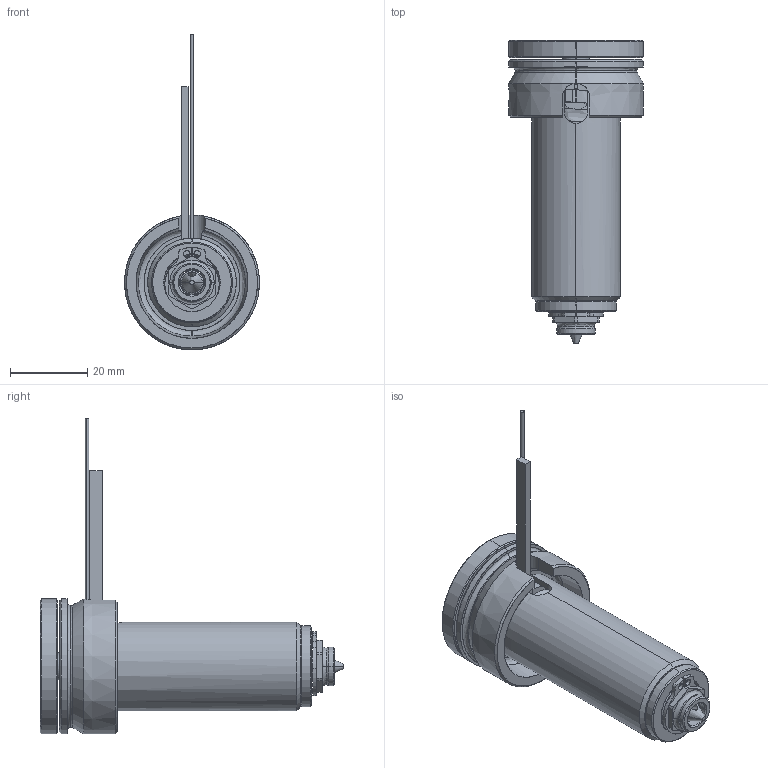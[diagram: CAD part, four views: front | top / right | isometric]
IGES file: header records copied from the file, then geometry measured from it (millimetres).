
Start section: SolidWorks IGES file using analytic representation for surfaces
Global section: file name: C:\Documents and Settings\ws-20\Desktop\TEM\UGEP3051-S-A-1 [Øf-1.10 ØC-7.0].IGS; native system: SolidWorks 2012; preprocessor: SolidWorks 2012; author: ws-20; date: 120402.143215; units: millimetre
Bounding box: 35 x 78.8 x 81.9 mm (x, y, z)
Surface area: 18271.2 mm2 (no closed solid volume)
Topology: 0 solids, 0 shells, 137 faces, 2200 edges, 2200 vertices
Faces by surface type: revolution 83, bspline 54
